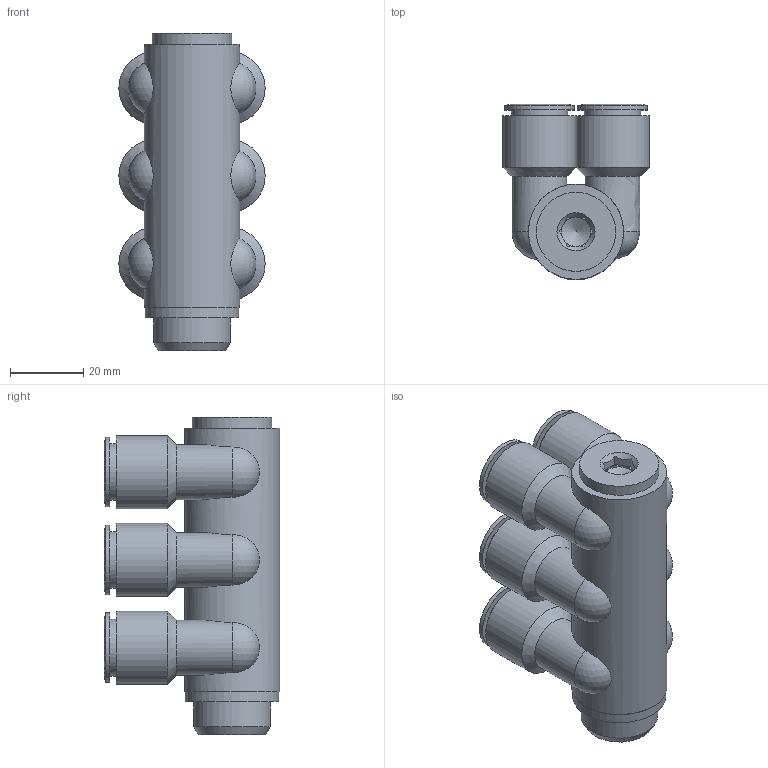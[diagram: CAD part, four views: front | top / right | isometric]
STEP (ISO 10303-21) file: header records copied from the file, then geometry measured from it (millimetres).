
FILE_DESCRIPTION((''),'2;1');
FILE_NAME('C:\Documents and Settings\rivolro1\Documenti\copia di Raccordi\PLASTICA\T34BXXXX\T34B1212.stp','2007-11-03T09:08:51',('Rivolro1'),(''),'Autodesk Inventor 2008','Autodesk Inventor 2008','');
FILE_SCHEMA(('AUTOMOTIVE_DESIGN { 1 0 10303 214 1 1 1 1 }'));
Length unit declared in the file: millimetre
Products named in the file (1): T34B1212
Bounding box: 40 x 47.9 x 86.8 mm (x, y, z)
Volume: 65796.4 mm3; surface area: 27680.5 mm2
Topology: 1 solids, 1 shells, 121 faces, 232 edges, 140 vertices
Faces by surface type: bspline 60, plane 26, cylinder 25, cone 7, sphere 3
Full cylindrical faces by diameter (mm): 10.3 x3, 15 x3, 15.5 x3, 19 x3, 20 x3, 21 x1, 21.667 x1, 25.6 x1, 26 x1
Entity records: 4289 total; most frequent: CARTESIAN_POINT 2235, DIRECTION 356, ORIENTED_EDGE 322, EDGE_LOOP 204, AXIS2_PLACEMENT_3D 163, EDGE_CURVE 161, FACE_OUTER_BOUND 121, ADVANCED_FACE 121
